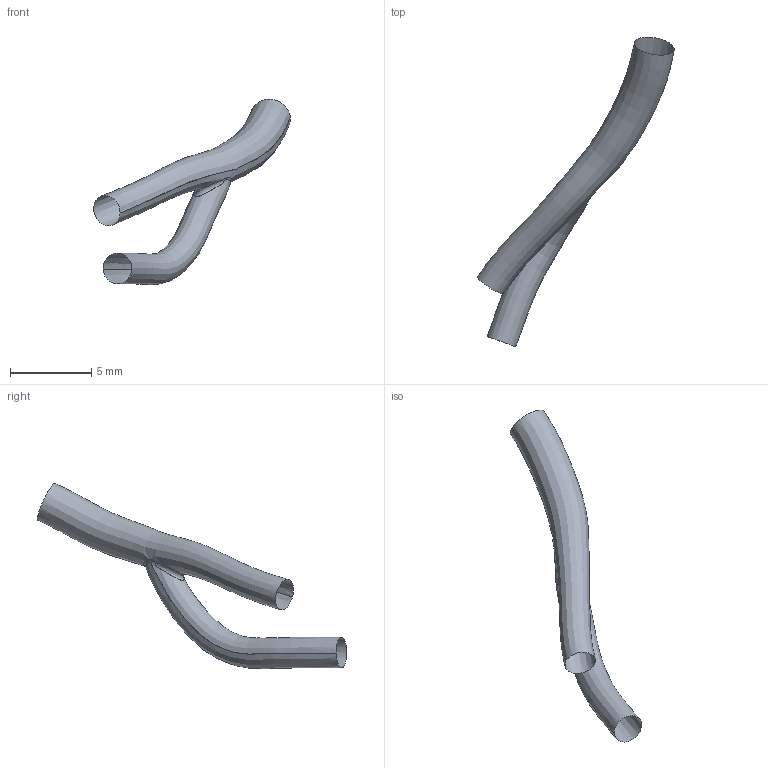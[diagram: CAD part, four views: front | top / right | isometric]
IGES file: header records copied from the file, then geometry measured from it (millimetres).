
Global section: file name: C:\Documents and Settings\Administrator\Desktop\FDA-Pig\Domestic LCA\Pig_000011\om.es.igs; native system: Rhinoceros ( May 19 2006 ); preprocessor: Trout Lake IGES 012 May 19 2006; date: 111205.184032; units: centimetre
Bounding box: 12.09 x 19.01 x 11.39 mm (x, y, z)
Surface area: 214.2 mm2 (no closed solid volume)
Topology: 0 solids, 0 shells, 3 faces, 63 edges, 60 vertices
Faces by surface type: bspline 3
